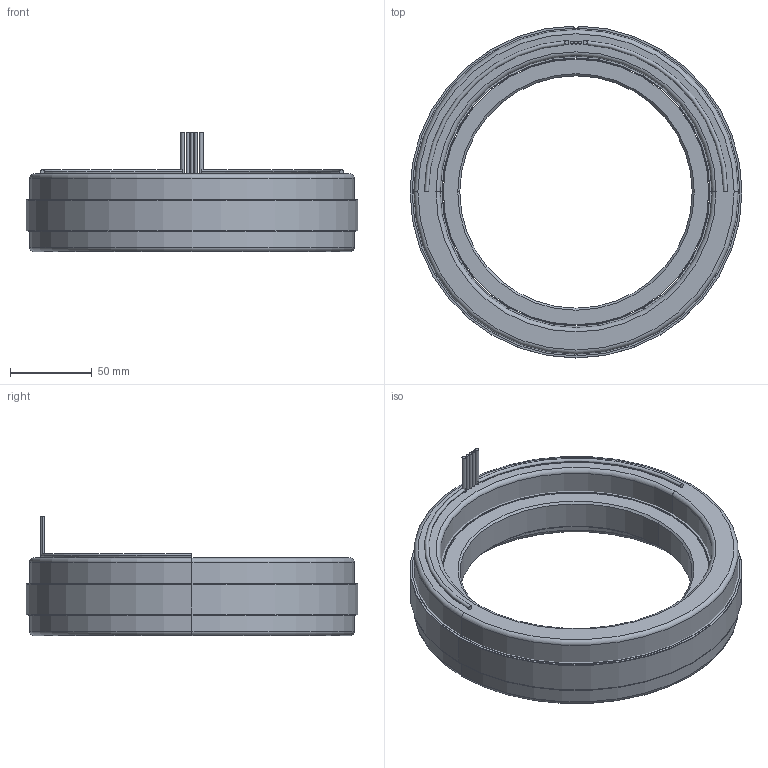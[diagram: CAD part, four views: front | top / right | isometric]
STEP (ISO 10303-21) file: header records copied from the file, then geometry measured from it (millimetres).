
FILE_DESCRIPTION (( 'STEP AP214' ), '1' );
FILE_NAME ('6100326-01.STEP', '2019-10-23T23:24:06', ( '' ), ( '' ), 'SwSTEP 2.0', 'SolidWorks 2016', '' );
FILE_SCHEMA (( 'AUTOMOTIVE_DESIGN' ));
Length unit declared in the file: millimetre
Products named in the file (11): 4150150-XX_4150150-01; 4600534-00; 4400075-00; COMP4500534-XX(COIL)_COMP4500534-01; 6100326-01; 4500534-XX_4500534-01; 4450161-XX_4450161-01; 4250358-XX_4250358-01
Assembly tree (10 placements, depth 4):
  6100326-01
    4500534-XX_4500534-01
      4450161-XX_4450161-01
        4450161-XX_4450161-01
        4400075-00
        4400075-00
        4600534-00
        4600534-00
      COMP4500534-XX(COIL)_COMP4500534-01
    4250358-XX_4250358-01
      4150150-XX_4150150-01
Bounding box: 203.2 x 203.19 x 72.9 mm (x, y, z)
Volume: 750078.1 mm3; surface area: 233308.2 mm2
Topology: 14 solids, 14 shells, 94 faces, 186 edges, 120 vertices
Faces by surface type: cylinder 50, plane 28, torus 12, cone 4
Entity records: 2985 total; most frequent: DIRECTION 538, CARTESIAN_POINT 416, ORIENTED_EDGE 372, AXIS2_PLACEMENT_3D 242, EDGE_CURVE 186, CIRCLE 132, VERTEX_POINT 120, EDGE_LOOP 108
